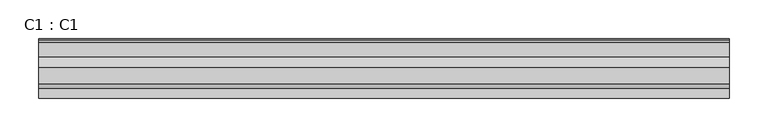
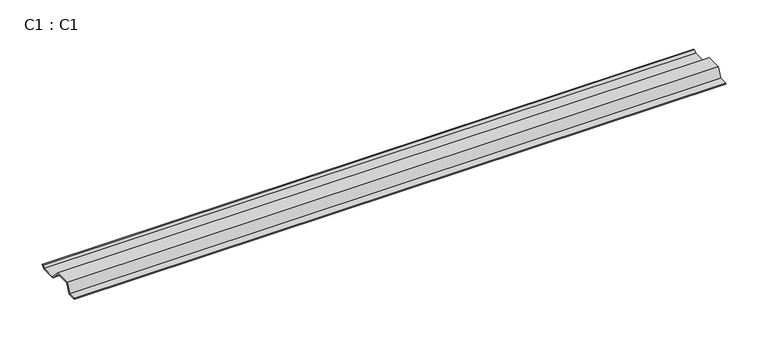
"""IFC4 building model written with IfcOpenShell, lengths in millimetres: proxy geometry, C1 : C1."""

from ifc_helpers import new_model, si_unit, frame, origin, place, context, project, spatial, polyline, outline, extrude, source, transform, mapped, element, save


def c1_c1_9b41bbc7(model_context):
    return source(origin(), model_context, "Body", "SweptSolid", [
        extrude(outline(polyline([(-24.8328427, 1.2e-06), (-37.8328427, 13.0000012), (-57.9948698, 13.0000012), (-63.7828427, 1.2e-06), (-76.4828427, 1.2e-06), (-76.4828427, 1.4000012), (-64.6920133, 1.4000012), (-58.9040404, 14.4000012), (-37.170101, 14.4000012), (-24.170101, 1.4000012), (-4.979899, 1.4000012), (-1.979899, 4.4000012), (0.0, 4.4000012), (-4.4, 1.2e-06), (-24.8328427, 1.2e-06)])), frame((1.0, 0.0, 0.0), z_axis=(1.0, 0.0, 0.0), x_axis=(0.0, 1.0, 0.0)), (0.0, 0.0, 1.0), 891.0),
    ])


if __name__ == "__main__":
    model = new_model("IFC4")
    model_context = context("Model", 3, world=origin())
    ifc_project = project(units=[si_unit("LENGTHUNIT", "METRE", prefix="MILLI")], contexts=[model_context])
    site = spatial("IfcSite", under=ifc_project)
    building = spatial("IfcBuilding", under=site)
    placement = place(None, origin())
    c1_c1_shape = c1_c1_9b41bbc7(model_context)
    element("IfcBuildingElementProxy", 1, Name="C1 : C1", ObjectType="C1 : C1", at=placement, inside=building, context=model_context, shape_type="MappedRepresentation", body=[
        mapped(c1_c1_shape, transform((0.0, 0.0, 0.0), x_axis=(1.0, 0.0, 0.0), y_axis=(0.0, 1.0, 0.0), z_axis=(0.0, 0.0, 1.0))),
    ])
    save(model, "model.ifc")
